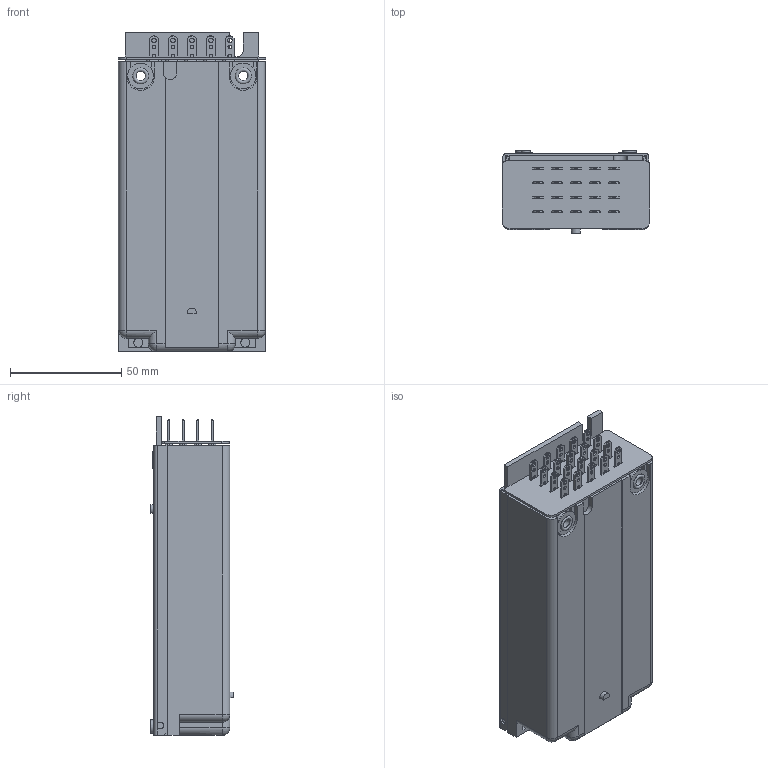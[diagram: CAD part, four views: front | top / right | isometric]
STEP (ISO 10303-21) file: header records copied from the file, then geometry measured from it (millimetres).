
FILE_DESCRIPTION((''),'2;1');
FILE_NAME('C:\Documents and Settings\Arnoud\Bureaublad\C-relais.stp','2009-03-04T15:35:03',('Arnoud'),(''),'Autodesk Inventor 2009','Autodesk Inventor 2009','');
FILE_SCHEMA(('AUTOMOTIVE_DESIGN { 1 0 10303 214 1 1 1 1 }'));
Length unit declared in the file: millimetre
Products named in the file (1): C-relais
Bounding box: 66 x 37.2 x 143.1 mm (x, y, z)
Volume: 77185.1 mm3; surface area: 78661.4 mm2
Topology: 1 solids, 21 shells, 1610 faces, 4380 edges, 2808 vertices
Faces by surface type: plane 1173, cylinder 241, cone 166, bspline 16, torus 10, sphere 4
Full cylindrical faces by diameter (mm): 1.6 x60, 2 x1, 2.045 x40, 2.1 x1, 2.85 x2, 3 x3, 3.15 x2, 3.3 x2, 4 x1, 4.2 x2, 5 x2, 5.15 x2, 5.2 x12, 6 x12, 7.5 x2, 8.9 x2, 11.5 x2
Entity records: 52041 total; most frequent: CARTESIAN_POINT 9315, DIRECTION 8423, ORIENTED_EDGE 8346, EDGE_CURVE 4173, VECTOR 3041, LINE 3041, VERTEX_POINT 2779, AXIS2_PLACEMENT_3D 2691
